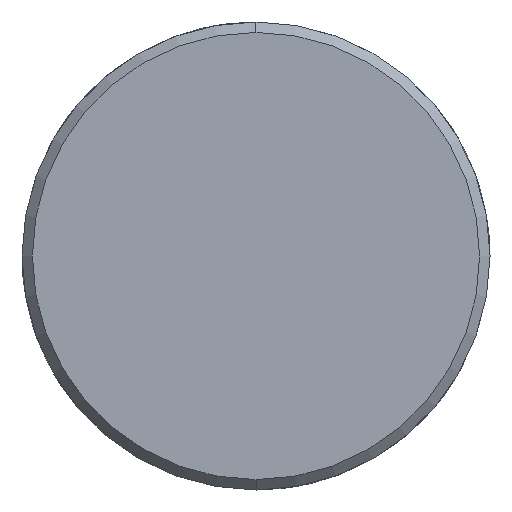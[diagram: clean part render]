
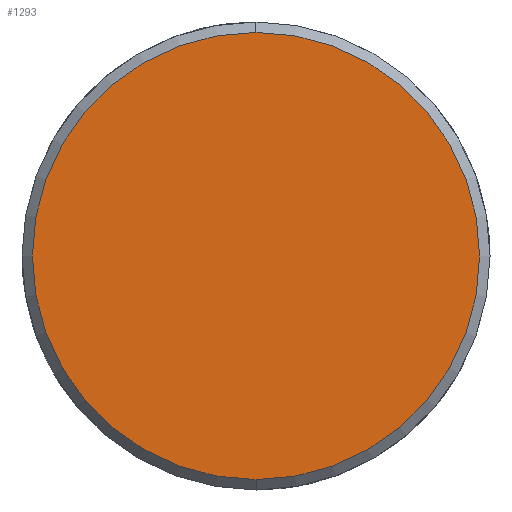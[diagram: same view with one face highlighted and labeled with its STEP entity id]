
A CAD part, left-side view. The second image highlights one B-rep face of the part: STEP entity #1293.
In plain terms, the highlighted planar face has unit normal (-1, 0, 0).
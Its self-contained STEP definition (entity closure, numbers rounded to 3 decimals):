
#1225=CARTESIAN_POINT('Vertex',(-7.,0.,-21.5)) ;
#1228=CARTESIAN_POINT('Axis2P3D Location',(-7.,0.,0.)) ;
#1232=CARTESIAN_POINT('Vertex',(-7.,21.5,0.)) ;
#1235=CARTESIAN_POINT('Axis2P3D Location',(-7.,0.,0.)) ;
#1239=CARTESIAN_POINT('Vertex',(-7.,0.,21.5)) ;
#1261=CARTESIAN_POINT('Axis2P3D Location',(-7.,0.,0.)) ;
#1265=CARTESIAN_POINT('Vertex',(-7.,-21.5,0.)) ;
#1268=CARTESIAN_POINT('Axis2P3D Location',(-7.,0.,0.)) ;
#1282=CARTESIAN_POINT('Axis2P3D Location',(-7.,0.,0.)) ;
#1229=DIRECTION('Axis2P3D Direction',(1.,0.,-0.)) ;
#1236=DIRECTION('Axis2P3D Direction',(1.,0.,-0.)) ;
#1262=DIRECTION('Axis2P3D Direction',(1.,0.,-0.)) ;
#1269=DIRECTION('Axis2P3D Direction',(1.,0.,-0.)) ;
#1283=DIRECTION('Axis2P3D Direction',(1.,0.,-0.)) ;
#1284=DIRECTION('Axis2P3D XDirection',(-0.,0.,-1.)) ;
#1230=AXIS2_PLACEMENT_3D('Circle Axis2P3D',#1228,#1229,$) ;
#1237=AXIS2_PLACEMENT_3D('Circle Axis2P3D',#1235,#1236,$) ;
#1263=AXIS2_PLACEMENT_3D('Circle Axis2P3D',#1261,#1262,$) ;
#1270=AXIS2_PLACEMENT_3D('Circle Axis2P3D',#1268,#1269,$) ;
#1285=AXIS2_PLACEMENT_3D('Plane Axis2P3D',#1282,#1283,#1284) ;
#1288=ORIENTED_EDGE('',*,*,#1234,.F.) ;
#1289=ORIENTED_EDGE('',*,*,#1272,.F.) ;
#1290=ORIENTED_EDGE('',*,*,#1267,.F.) ;
#1291=ORIENTED_EDGE('',*,*,#1241,.F.) ;
#1293=ADVANCED_FACE('351-32X66X160',(#1292),#1286,.F.) ;
#1231=CIRCLE('generated circle',#1230,21.5) ;
#1238=CIRCLE('generated circle',#1237,21.5) ;
#1264=CIRCLE('generated circle',#1263,21.5) ;
#1271=CIRCLE('generated circle',#1270,21.5) ;
#1234=EDGE_CURVE('',#1226,#1233,#1231,.T.) ;
#1241=EDGE_CURVE('',#1233,#1240,#1238,.T.) ;
#1267=EDGE_CURVE('',#1240,#1266,#1264,.T.) ;
#1272=EDGE_CURVE('',#1266,#1226,#1271,.T.) ;
#1287=EDGE_LOOP('',(#1288,#1289,#1290,#1291)) ;
#1292=FACE_OUTER_BOUND('',#1287,.T.) ;
#1286=PLANE('Plane',#1285) ;
#1226=VERTEX_POINT('',#1225) ;
#1233=VERTEX_POINT('',#1232) ;
#1240=VERTEX_POINT('',#1239) ;
#1266=VERTEX_POINT('',#1265) ;
